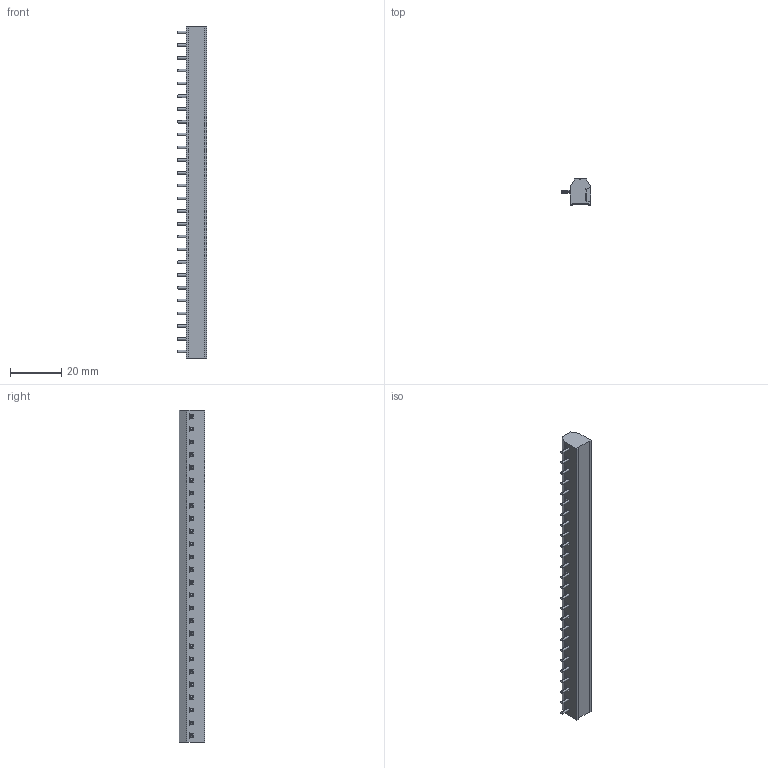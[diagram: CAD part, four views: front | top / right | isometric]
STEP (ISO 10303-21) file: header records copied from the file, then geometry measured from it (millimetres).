
FILE_DESCRIPTION (( 'STEP AP214' ), '1' );
FILE_NAME ('951-HG-DS-26.STEP', '2008-02-29T04:47:01', ( ' ' ), ( '' ), 'SwSTEP 2.0', 'SolidWorks 2007', '' );
FILE_SCHEMA (( 'AUTOMOTIVE_DESIGN' ));
Products named in the file (1): 951-HG-DS-26
Bounding box: 11.5 x 10 x 130 mm (x, y, z)
Volume: 8325.4 mm3; surface area: 7526.3 mm2
Topology: 1 solids, 1 shells, 1864 faces, 6018 edges, 4026 vertices
Faces by surface type: plane 1494, cylinder 266, cone 52, bspline 52
Entity records: 76398 total; most frequent: CARTESIAN_POINT 28176, ORIENTED_EDGE 12036, DIRECTION 7149, EDGE_CURVE 6018, VERTEX_POINT 4026, VECTOR 3251, LINE 3251, B_SPLINE_CURVE_WITH_KNOTS 2585
